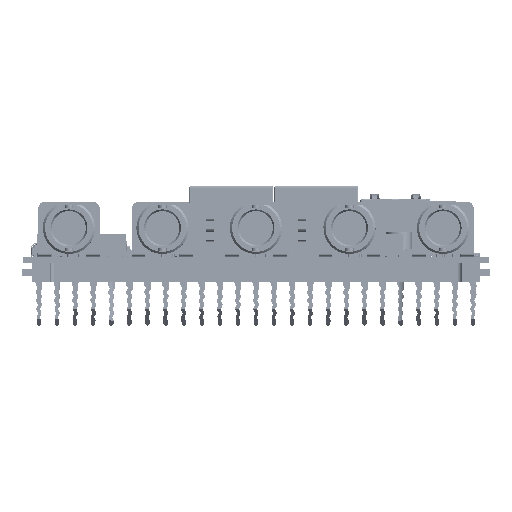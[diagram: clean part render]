
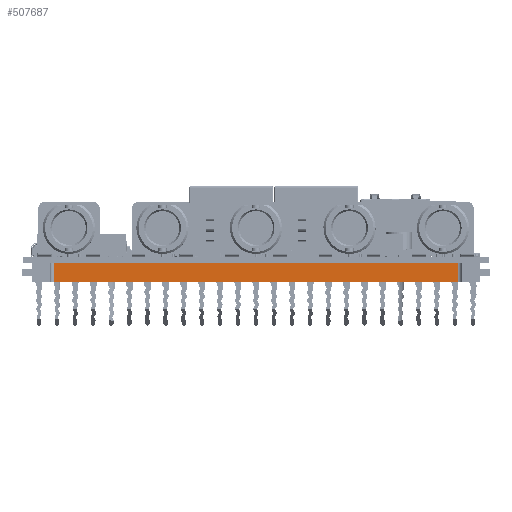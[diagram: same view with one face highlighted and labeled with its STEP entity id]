
A CAD part, left-side view. The second image highlights one B-rep face of the part: STEP entity #507687.
In plain terms, the highlighted planar face has unit normal (-1, 0, 0) as drawn and (0, 0, 1) by its records, which use the part's own axes.
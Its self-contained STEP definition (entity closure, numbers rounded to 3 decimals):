
#469822 = VERTEX_POINT('',#469823);
#469823 = CARTESIAN_POINT('',(22.4,0.,59.));
#469830 = EDGE_CURVE('',#469822,#469831,#469833,.T.);
#469831 = VERTEX_POINT('',#469832);
#469832 = CARTESIAN_POINT('',(-74.6,0.,59.));
#469833 = LINE('',#469834,#469835);
#469834 = CARTESIAN_POINT('',(-13.05,0.,59.));
#469835 = VECTOR('',#469836,1.);
#469836 = DIRECTION('',(-1.,0.,0.));
#483582 = VERTEX_POINT('',#483583);
#483583 = CARTESIAN_POINT('',(-74.6,4.5,59.));
#483590 = EDGE_CURVE('',#483582,#483591,#483593,.T.);
#483591 = VERTEX_POINT('',#483592);
#483592 = CARTESIAN_POINT('',(22.4,4.5,59.));
#483593 = LINE('',#483594,#483595);
#483594 = CARTESIAN_POINT('',(1.16,4.5,59.));
#483595 = VECTOR('',#483596,1.);
#483596 = DIRECTION('',(1.,0.,0.));
#507687 = ADVANCED_FACE('',(#507688),#507704,.F.);
#507688 = FACE_BOUND('',#507689,.T.);
#507689 = EDGE_LOOP('',(#507690,#507691,#507697,#507698));
#507690 = ORIENTED_EDGE('',*,*,#469830,.F.);
#507691 = ORIENTED_EDGE('',*,*,#507692,.F.);
#507692 = EDGE_CURVE('',#483591,#469822,#507693,.T.);
#507693 = LINE('',#507694,#507695);
#507694 = CARTESIAN_POINT('',(22.4,4.5,59.));
#507695 = VECTOR('',#507696,1.);
#507696 = DIRECTION('',(0.,-1.,0.));
#507697 = ORIENTED_EDGE('',*,*,#483590,.F.);
#507698 = ORIENTED_EDGE('',*,*,#507699,.T.);
#507699 = EDGE_CURVE('',#483582,#469831,#507700,.T.);
#507700 = LINE('',#507701,#507702);
#507701 = CARTESIAN_POINT('',(-74.6,4.5,59.));
#507702 = VECTOR('',#507703,1.);
#507703 = DIRECTION('',(0.,-1.,0.));
#507704 = PLANE('',#507705);
#507705 = AXIS2_PLACEMENT_3D('',#507706,#507707,#507708);
#507706 = CARTESIAN_POINT('',(-26.1,4.5,59.));
#507707 = DIRECTION('',(0.,0.,-1.));
#507708 = DIRECTION('',(-1.,0.,0.));
